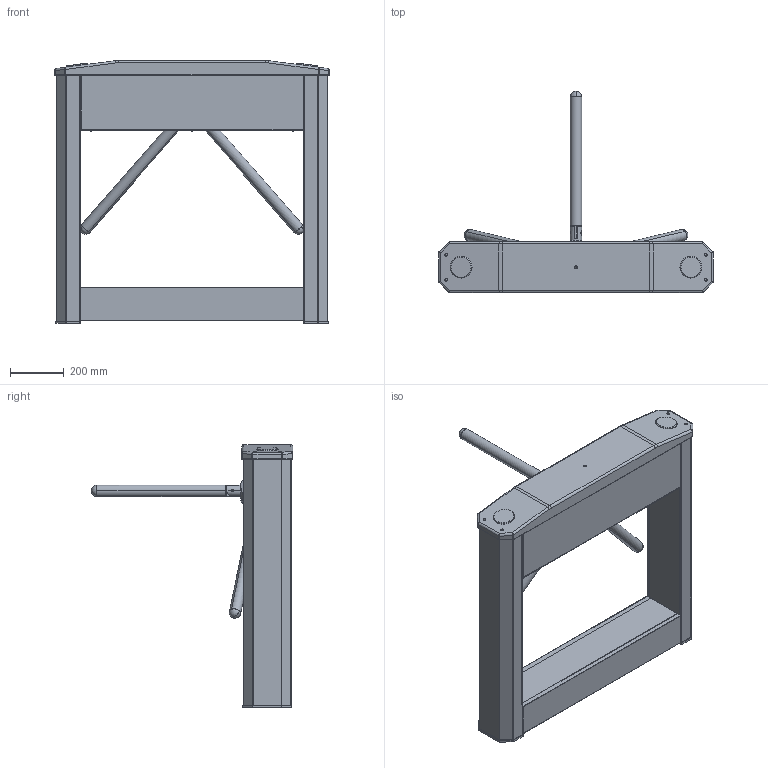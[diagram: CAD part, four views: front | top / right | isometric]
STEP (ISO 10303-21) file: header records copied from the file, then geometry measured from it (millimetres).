
FILE_DESCRIPTION (( 'STEP AP214' ), '1' );
FILE_NAME ('0741-14-ö32 Fedlappal Szerelt ProxerGate3 42,4 kar rendszer.STEP', '2021-09-17T10:17:53', ( '' ), ( '' ), 'SwSTEP 2.0', 'SolidWorks 2020', '' );
FILE_SCHEMA (( 'AUTOMOTIVE_DESIGN' ));
Length unit declared in the file: millimetre
Products named in the file (1): 0741-14-ö32 Fedlappal Szerelt ProxerGate3 42,4 kar rendszer
Bounding box: 1018 x 747.11 x 974 mm (x, y, z)
Surface area: 4068130.6 mm2 (no closed solid volume)
Topology: 0 solids, 56 shells, 400 faces, 1535 edges, 1169 vertices
Faces by surface type: cylinder 184, plane 166, torus 18, sphere 12, cone 10, bspline 10
Entity records: 22285 total; most frequent: CARTESIAN_POINT 5087, DIRECTION 2812, ORIENTED_EDGE 2159, EDGE_CURVE 1527, VERTEX_POINT 1169, AXIS2_PLACEMENT_3D 998, LINE 816, VECTOR 816
